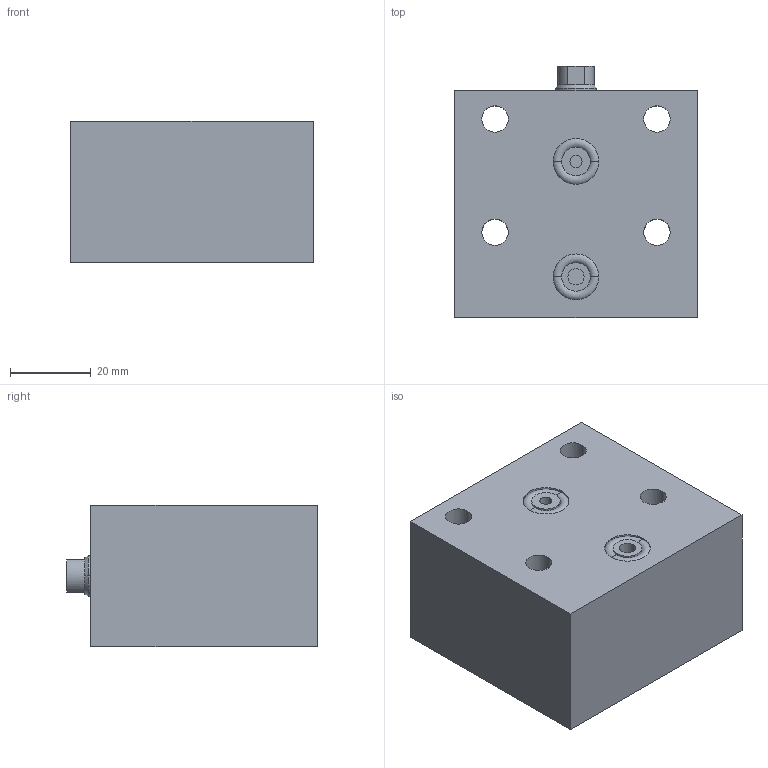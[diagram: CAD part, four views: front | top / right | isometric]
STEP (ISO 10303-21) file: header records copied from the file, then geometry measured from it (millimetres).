
FILE_DESCRIPTION (( 'STEP AP203' ), '1' );
FILE_NAME ('GERMA_Blockzylinder_603-016-016.STEP', '2016-01-04T15:52:58', ( '' ), ( '' ), 'SwSTEP 2.0', 'SolidWorks 2015', '' );
FILE_SCHEMA (( 'CONFIG_CONTROL_DESIGN' ));
Length unit declared in the file: millimetre
Products named in the file (3): GERMA_Blockzylinder_603-016-016; GH-600-016_GH-603-016-016; Kolben 60x-016_Kolben DU.16-Hub16-IG
Assembly tree (2 placements, depth 2):
  GERMA_Blockzylinder_603-016-016
    GH-600-016_GH-603-016-016
    Kolben 60x-016_Kolben DU.16-Hub16-IG
Bounding box: 60 x 62 x 35 mm (x, y, z)
Volume: 110904.7 mm3; surface area: 22288.4 mm2
Topology: 2 solids, 2 shells, 79 faces, 172 edges, 104 vertices
Faces by surface type: cylinder 39, plane 22, cone 14, torus 4
Entity records: 2456 total; most frequent: DIRECTION 429, CARTESIAN_POINT 354, ORIENTED_EDGE 332, AXIS2_PLACEMENT_3D 179, EDGE_CURVE 166, VERTEX_POINT 104, EDGE_LOOP 100, CIRCLE 95
